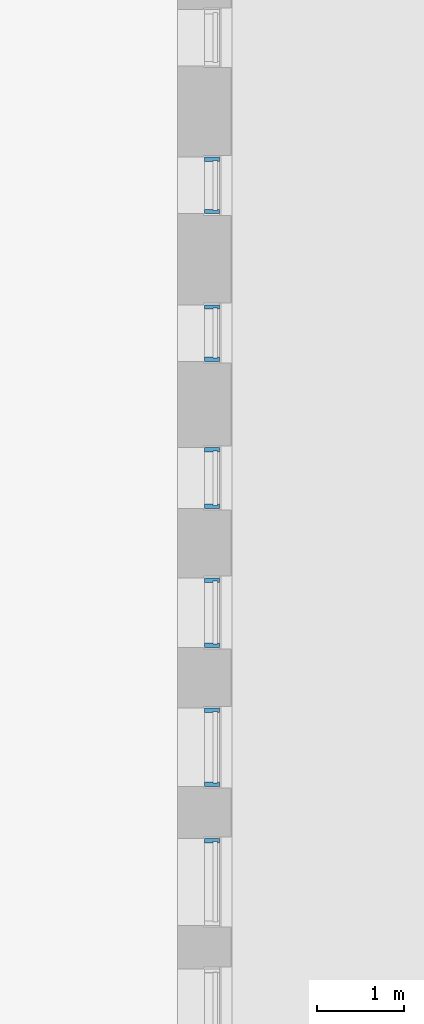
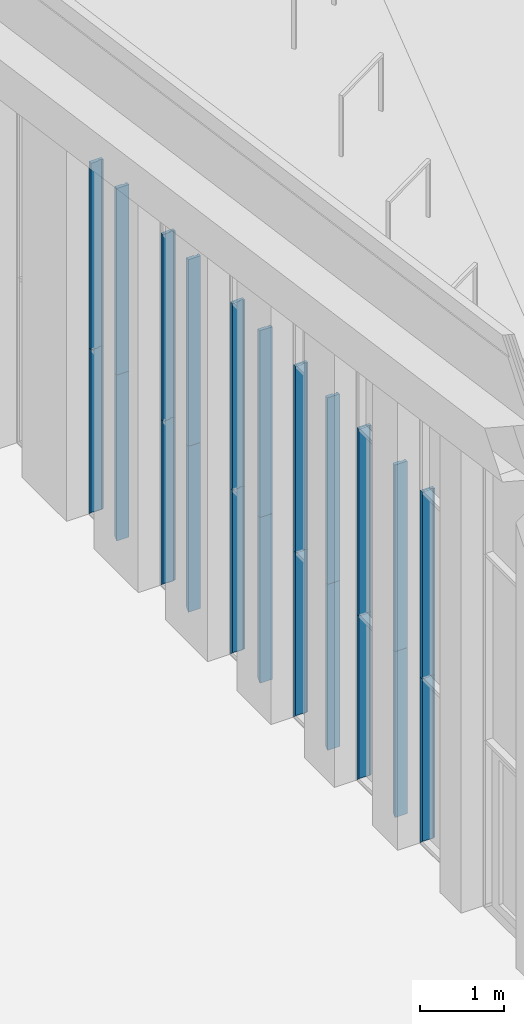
# One storey, part 17 of 246: 22 members, 6 elements without a shape of their own.
"""IFC2X3 building model written with IfcOpenShell, lengths in millimetres."""

from ifc_helpers import new_model, entity, si_unit, converted_unit, derived_unit, money_unit, direction, frame, origin_with_axes, place, context, subcontext, project, spatial, faceted_brep, source, transform, mapped, material, type_object, element, aggregate, save


model = new_model("IFC2X3")

# Units and contexts
model_context = context("Model", 3, precision=0.01, world=origin_with_axes(), true_north=direction((0.0, 1.0)))
body_context = subcontext(model_context, "Body", "Model", "MODEL_VIEW")
ifc_project = project(units=[si_unit("LENGTHUNIT", "METRE", prefix="MILLI"), si_unit("AREAUNIT", "SQUARE_METRE"), si_unit("VOLUMEUNIT", "CUBIC_METRE"), converted_unit("PLANEANGLEUNIT", "DEGREE", entity("IfcPlaneAngleMeasure", 0.0174532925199), si_unit("PLANEANGLEUNIT", "RADIAN"), dimensions=[0, 0, 0, 0, 0, 0, 0]), si_unit("SOLIDANGLEUNIT", "STERADIAN"), money_unit("EUR"), converted_unit("TIMEUNIT", "Year", entity("IfcTimeMeasure", 31556926.0), si_unit("TIMEUNIT", "SECOND"), dimensions=[0, 0, 1, 0, 0, 0, 0]), si_unit("MASSUNIT", "GRAM", prefix="KILO"), si_unit("THERMODYNAMICTEMPERATUREUNIT", "DEGREE_CELSIUS"), si_unit("LUMINOUSINTENSITYUNIT", "LUMEN"), si_unit("ENERGYUNIT", "JOULE", prefix="MEGA"), derived_unit("THERMALCONDUCTANCEUNIT", [(si_unit("POWERUNIT", "WATT"), 1), (si_unit("LENGTHUNIT", "METRE"), -1), (si_unit("THERMODYNAMICTEMPERATUREUNIT", "KELVIN"), -1)]), derived_unit("SPECIFICHEATCAPACITYUNIT", [(si_unit("ENERGYUNIT", "JOULE"), 1), (si_unit("MASSUNIT", "GRAM", prefix="KILO"), -1), (si_unit("THERMODYNAMICTEMPERATUREUNIT", "KELVIN"), -1)]), derived_unit("MASSDENSITYUNIT", [(si_unit("MASSUNIT", "GRAM", prefix="KILO"), 1), (si_unit("VOLUMEUNIT", "CUBIC_METRE"), -1)])], contexts=[model_context])

# Site, building, storey
site_placement = place(None, origin_with_axes())
site = spatial("IfcSite", under=ifc_project, at=site_placement, Name="L.Koidula tn 11b", CompositionType="ELEMENT")
building_placement = place(site_placement, origin_with_axes())
building = spatial("IfcBuilding", under=site, at=building_placement, Name="Rakvere Riigigümnaasium", CompositionType="ELEMENT")
storey_placement = place(building_placement, origin_with_axes())
storey = spatial("IfcBuildingStorey", under=building, at=storey_placement, Name="1.korrus 0,00", CompositionType="ELEMENT", Elevation=0.0)

# Curtain wall, members
curtain_wall_type = type_object("IfcCurtainWallType", Name="Curtain Wall Type", PredefinedType="NOTDEFINED")
curtain_wall_1_placement = place(storey_placement, frame((47433.9999935, 52250.4459079, -7.88318499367e-05), z_axis=(0.0, 0.0, 1.0), x_axis=(1.0, 0.0, 0.0)))
curtain_wall_1 = element("IfcCurtainWall", 1, at=curtain_wall_1_placement, inside=storey, type_object=curtain_wall_type, Name="KLF-07-05")
ifc_material = material(Name="Alumiiniumprofiil (RAL 7021)")
member_type = type_object("IfcMemberType", Name="Boundary Frame 50 x 170", PredefinedType="MULLION")
shared_shape_1 = source(origin_with_axes(), body_context, "Body", "Brep", [
    faceted_brep([(-37.0, -26.0, 2700.00000012), (-50.0, -26.0, 2700.00000012), (-50.0, -124.0, 2700.00000012), (0.0, -124.0, 2700.00000012), (0.0, 46.0, 2700.00000012), (-50.0, 46.0, 2700.00000012), (-50.0, 26.0, 2700.00000012), (-37.0, 26.0, 2700.00000012), (-37.0, -26.0, -5.18836085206e-07), (-50.0, -26.0, -5.18836307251e-07), (-50.0, -124.0, -5.18836307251e-07), (0.0, -124.0, -5.18836307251e-07), (0.0, 46.0, -5.18836307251e-07), (-50.0, 46.0, -5.18836307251e-07), (-50.0, 26.0, -5.18836307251e-07), (-37.0, 26.0, -5.18836085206e-07)], [[[0, 1, 2, 3, 4, 5, 6, 7]], [[0, 8, 9, 1]], [[9, 10, 2, 1]], [[10, 11, 3, 2]], [[11, 12, 4, 3]], [[12, 13, 5, 4]], [[6, 5, 13, 14]], [[14, 15, 7, 6]], [[7, 15, 8, 0]], [[8, 15, 14, 13, 12, 11, 10, 9]]]),
])
member_1_placement = place(curtain_wall_1_placement, frame((0.0, -449.999957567, 2400.00007883), z_axis=(0.0, 4.95403290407e-09, 1.0), x_axis=(0.0, 1.0, -4.95403290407e-09)))
member_1 = element("IfcMember", 2, at=member_1_placement, type_object=member_type, material=ifc_material, Name="KLF-07-75-Profiilid", ObjectType="MULLION", context=body_context, shape_type="MappedRepresentation", body=[
    mapped(shared_shape_1, transform((0.0, 0.0, 0.0), x_axis=(-1.0, 0.0, -4.95403290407e-09), y_axis=(0.0, -1.0, 0.0), z_axis=(-4.95403290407e-09, 0.0, 1.0))),
])
member_2_placement = place(curtain_wall_1_placement, frame((0.0, 449.999903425, 5100.00007883), z_axis=(0.0, 3.51510728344e-08, -1.0), x_axis=(0.0, -1.0, -3.51510728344e-08)))
member_2 = element("IfcMember", 3, at=member_2_placement, type_object=member_type, material=ifc_material, Name="KLF-07-79-Profiilid", ObjectType="MULLION", context=body_context, shape_type="MappedRepresentation", body=[
    mapped(shared_shape_1, transform((0.0, 0.0, 0.0), x_axis=(-1.0, 0.0, 3.51510727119e-08), y_axis=(0.0, -1.0, 0.0), z_axis=(3.51510727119e-08, 0.0, 1.0))),
])

curtain_wall_2_placement = place(storey_placement, frame((47433.9999935, 53800.4459212, -2.62174737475e-05), z_axis=(0.0, 0.0, 1.0), x_axis=(1.0, 0.0, 0.0)))
curtain_wall_2 = element("IfcCurtainWall", 4, at=curtain_wall_2_placement, inside=storey, type_object=curtain_wall_type, Name="KLF-07-06")
member_3_placement = place(curtain_wall_2_placement, frame((0.0, -399.999986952, 2400.00002622), z_axis=(0.0, 3.28485959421e-08, 1.0), x_axis=(0.0, 1.0, -3.28485959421e-08)))
member_3 = element("IfcMember", 5, at=member_3_placement, type_object=member_type, material=ifc_material, Name="KLF-07-76-Profiilid", ObjectType="MULLION", context=body_context, shape_type="MappedRepresentation", body=[
    mapped(shared_shape_1, transform((0.0, 0.0, 0.0), x_axis=(-1.0, 0.0, -3.28485959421e-08), y_axis=(0.0, -1.0, 0.0), z_axis=(-3.28485959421e-08, 0.0, 1.0))),
])
member_4_placement = place(curtain_wall_2_placement, frame((0.0, 399.99989685, 5100.00002622), z_axis=(0.0, 3.38938674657e-08, -1.0), x_axis=(0.0, -1.0, -3.38938674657e-08)))
member_4 = element("IfcMember", 6, at=member_4_placement, type_object=member_type, material=ifc_material, Name="KLF-07-80-Profiilid", ObjectType="MULLION", context=body_context, shape_type="MappedRepresentation", body=[
    mapped(shared_shape_1, transform((0.0, 0.0, 0.0), x_axis=(-1.0, 0.0, 3.38938673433e-08), y_axis=(0.0, -1.0, 0.0), z_axis=(3.38938673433e-08, 0.0, 1.0))),
])

curtain_wall_3_placement = place(storey_placement, frame((47433.9999935, 55350.4459233, 0.0), z_axis=(0.0, 0.0, 1.0), x_axis=(1.0, 0.0, 0.0)))
curtain_wall_3 = element("IfcCurtainWall", 7, at=curtain_wall_3_placement, inside=storey, type_object=curtain_wall_type, Name="KLF-07-07")
member_5_placement = place(curtain_wall_3_placement, frame((0.0, -350.000107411, 2400.0), z_axis=(0.0, 5.23833052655e-08, 1.0), x_axis=(0.0, 1.0, -5.23833052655e-08)))
member_5 = element("IfcMember", 8, at=member_5_placement, type_object=member_type, material=ifc_material, Name="KLF-07-76-Profiilid", ObjectType="MULLION", context=body_context, shape_type="MappedRepresentation", body=[
    mapped(shared_shape_1, transform((0.0, 0.0, 0.0), x_axis=(-1.0, 0.0, -5.23833052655e-08), y_axis=(0.0, -1.0, 0.0), z_axis=(-5.23833052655e-08, 0.0, 1.0))),
])
member_6_placement = place(curtain_wall_3_placement, frame((0.0, 350.000036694, 5100.0), z_axis=(0.0, 0.0, -1.0), x_axis=(0.0, -1.0, 0.0)))
member_6 = element("IfcMember", 9, at=member_6_placement, type_object=member_type, material=ifc_material, Name="KLF-07-80-Profiilid", ObjectType="MULLION", context=body_context, shape_type="MappedRepresentation", body=[
    mapped(shared_shape_1, transform((0.0, 0.0, 0.0), x_axis=(-1.0, 0.0, 0.0), y_axis=(0.0, -1.0, 0.0), z_axis=(0.0, 0.0, 1.0))),
])

curtain_wall_4_placement = place(storey_placement, frame((47433.9999935, 57020.45466, -7.96066081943e-05), z_axis=(0.0, 0.0, 1.0), x_axis=(1.0, 0.0, 0.0)))
curtain_wall_4 = element("IfcCurtainWall", 10, at=curtain_wall_4_placement, inside=storey, type_object=curtain_wall_type, Name="KLF-07-08")
member_7_placement = place(curtain_wall_4_placement, frame((0.0, -325.000155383, 2400.00007961), z_axis=(0.0, 6.11000198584e-08, 1.0), x_axis=(0.0, 1.0, -6.11000198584e-08)))
member_7 = element("IfcMember", 11, at=member_7_placement, type_object=member_type, material=ifc_material, Name="KLF-07-78-Profiilid", ObjectType="MULLION", context=body_context, shape_type="MappedRepresentation", body=[
    mapped(shared_shape_1, transform((0.0, 0.0, 0.0), x_axis=(-1.0, 0.0, -6.11000198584e-08), y_axis=(0.0, -1.0, 0.0), z_axis=(-6.11000198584e-08, 0.0, 1.0))),
])
member_8_placement = place(curtain_wall_4_placement, frame((0.0, 324.999985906, 5100.00007961), z_axis=(0.0, 0.0, -1.0), x_axis=(0.0, -1.0, 0.0)))
member_8 = element("IfcMember", 12, at=member_8_placement, type_object=member_type, material=ifc_material, Name="KLF-07-82-Profiilid", ObjectType="MULLION", context=body_context, shape_type="MappedRepresentation", body=[
    mapped(shared_shape_1, transform((0.0, 0.0, 0.0), x_axis=(-1.0, 0.0, 0.0), y_axis=(0.0, -1.0, 0.0), z_axis=(0.0, 0.0, 1.0))),
])

curtain_wall_5_placement = place(storey_placement, frame((47433.9999935, 58720.4546292, -7.96830551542e-05), z_axis=(0.0, 0.0, 1.0), x_axis=(1.0, 0.0, 0.0)))
curtain_wall_5 = element("IfcCurtainWall", 13, at=curtain_wall_5_placement, inside=storey, type_object=curtain_wall_type, Name="KLF-07-09")
member_9_placement = place(curtain_wall_5_placement, frame((0.0, -325.00012991, 2400.00007968), z_axis=(0.0, 6.48742333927e-08, 1.0), x_axis=(0.0, 1.0, -6.48742333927e-08)))
member_9 = element("IfcMember", 14, at=member_9_placement, type_object=member_type, material=ifc_material, Name="KLF-07-79_Profiilid", ObjectType="MULLION", context=body_context, shape_type="MappedRepresentation", body=[
    mapped(shared_shape_1, transform((0.0, 0.0, 0.0), x_axis=(-1.0, 0.0, -6.48742333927e-08), y_axis=(0.0, -1.0, 0.0), z_axis=(-6.48742333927e-08, 0.0, 1.0))),
])
member_10_placement = place(curtain_wall_5_placement, frame((0.0, 325.00004233, 5100.00007968), z_axis=(0.0, 0.0, -1.0), x_axis=(0.0, -1.0, 0.0)))
member_10 = element("IfcMember", 15, at=member_10_placement, type_object=member_type, material=ifc_material, Name="KLF-07-83_Profiilid", ObjectType="MULLION", context=body_context, shape_type="MappedRepresentation", body=[
    mapped(shared_shape_1, transform((0.0, 0.0, 0.0), x_axis=(-1.0, 0.0, 0.0), y_axis=(0.0, -1.0, 0.0), z_axis=(0.0, 0.0, 1.0))),
])

# Member
shared_shape_2 = source(origin_with_axes(), body_context, "Body", "Brep", [
    faceted_brep([(-37.0, -26.0, 2400.00000019), (-50.0, -26.0, 2400.00000019), (-50.0, -124.0, 2400.00000019), (0.0, -124.0, 2400.00000019), (0.0, 46.0, 2400.00000019), (-50.0, 46.0, 2400.00000019), (-50.0, 26.0, 2400.00000019), (-37.0, 26.0, 2400.00000019), (-37.0, -26.0, 37.0), (-50.0, -26.0, 50.0), (-50.0, -124.0, 50.0), (0.0, -124.0, 0.0), (0.0, 46.0, 0.0), (-50.0, 46.0, 50.0), (-50.0, 26.0, 50.0), (-37.0, 26.0, 37.0)], [[[0, 1, 2, 3, 4, 5, 6, 7]], [[0, 8, 9, 1]], [[9, 10, 2, 1]], [[2, 10, 11, 3]], [[3, 11, 12, 4]], [[4, 12, 13, 5]], [[6, 5, 13, 14]], [[14, 15, 7, 6]], [[7, 15, 8, 0]], [[8, 15, 14, 13, 12, 11, 10, 9]]]),
])
member_11_placement = place(curtain_wall_1_placement, frame((0.0, -449.999957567, 0.0), z_axis=(0.0, 0.0, 1.0), x_axis=(0.0, 1.0, 0.0)))
member_11 = element("IfcMember", 16, at=member_11_placement, type_object=member_type, material=ifc_material, Name="KLF-07-74-Profiilid", ObjectType="MULLION", context=body_context, shape_type="MappedRepresentation", body=[
    mapped(shared_shape_2, transform((0.0, 0.0, 0.0), x_axis=(-1.0, 0.0, 0.0), y_axis=(0.0, -1.0, 0.0), z_axis=(0.0, 0.0, 1.0))),
])

member_12_placement = place(curtain_wall_2_placement, frame((0.0, -399.999986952, 0.0), z_axis=(0.0, 0.0, 1.0), x_axis=(0.0, 1.0, 0.0)))
member_12 = element("IfcMember", 17, at=member_12_placement, type_object=member_type, material=ifc_material, Name="KLF-07-75-Profiilid", ObjectType="MULLION", context=body_context, shape_type="MappedRepresentation", body=[
    mapped(shared_shape_2, transform((0.0, 0.0, 0.0), x_axis=(-1.0, 0.0, 0.0), y_axis=(0.0, -1.0, 0.0), z_axis=(0.0, 0.0, 1.0))),
])

member_13_placement = place(curtain_wall_3_placement, frame((0.0, -350.000195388, 0.0), z_axis=(0.0, 3.66567813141e-08, 1.0), x_axis=(0.0, 1.0, -3.66567813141e-08)))
member_13 = element("IfcMember", 18, at=member_13_placement, type_object=member_type, material=ifc_material, Name="KLF-07-75-Profiilid", ObjectType="MULLION", context=body_context, shape_type="MappedRepresentation", body=[
    mapped(shared_shape_2, transform((0.0, 0.0, 0.0), x_axis=(-1.0, 0.0, -3.66567813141e-08), y_axis=(0.0, -1.0, 0.0), z_axis=(-3.66567813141e-08, 0.0, 1.0))),
])

member_14_placement = place(curtain_wall_4_placement, frame((0.0, -325.000324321, 0.0), z_axis=(0.0, 7.03908937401e-08, 1.0), x_axis=(0.0, 1.0, -7.03908937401e-08)))
member_14 = element("IfcMember", 19, at=member_14_placement, type_object=member_type, material=ifc_material, Name="KLF-07-77-Profiilid", ObjectType="MULLION", context=body_context, shape_type="MappedRepresentation", body=[
    mapped(shared_shape_2, transform((0.0, 0.0, 0.0), x_axis=(-1.0, 0.0, -7.03908937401e-08), y_axis=(0.0, -1.0, 0.0), z_axis=(-7.03908937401e-08, 0.0, 1.0))),
])

member_15_placement = place(curtain_wall_5_placement, frame((0.0, -325.000210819, 0.0), z_axis=(0.0, 3.37120394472e-08, 1.0), x_axis=(0.0, 1.0, -3.37120394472e-08)))
member_15 = element("IfcMember", 20, at=member_15_placement, type_object=member_type, material=ifc_material, Name="KLF-07-78_Profiilid", ObjectType="MULLION", context=body_context, shape_type="MappedRepresentation", body=[
    mapped(shared_shape_2, transform((0.0, 0.0, 0.0), x_axis=(-1.0, 0.0, -3.37120394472e-08), y_axis=(0.0, -1.0, 0.0), z_axis=(-3.37120394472e-08, 0.0, 1.0))),
])

shared_shape_3 = source(origin_with_axes(), body_context, "Body", "Brep", [
    faceted_brep([(-37.0, -26.0, 2362.99999837), (-50.0, -26.0, 2349.99999779), (-50.0, -124.0, 2349.99999779), (0.0, -124.0, 2400.0), (0.0, 46.0, 2400.0), (-50.0, 46.0, 2349.99999779), (-50.0, 26.0, 2349.99999779), (-37.0, 26.0, 2362.99999837), (-37.0, -26.0, -1.22574839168e-07), (-50.0, -26.0, -1.22575061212e-07), (-50.0, -124.0, -1.22575061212e-07), (0.0, -124.0, -1.22575061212e-07), (0.0, 46.0, -1.22575061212e-07), (-50.0, 46.0, -1.22575061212e-07), (-50.0, 26.0, -1.22575061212e-07), (-37.0, 26.0, -1.22574839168e-07)], [[[0, 1, 2, 3, 4, 5, 6, 7]], [[0, 8, 9, 1]], [[9, 10, 2, 1]], [[10, 11, 3, 2]], [[11, 12, 4, 3]], [[12, 13, 5, 4]], [[6, 5, 13, 14]], [[14, 15, 7, 6]], [[7, 15, 8, 0]], [[8, 15, 14, 13, 12, 11, 10, 9]]]),
])
member_16_placement = place(curtain_wall_1_placement, frame((0.0, 449.999998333, 2400.00007883), z_axis=(0.0, 3.95449556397e-08, -1.0), x_axis=(0.0, -1.0, -3.95449556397e-08)))
member_16 = element("IfcMember", 21, at=member_16_placement, type_object=member_type, material=ifc_material, Name="KLF-07-72-Profiilid", ObjectType="MULLION", context=body_context, shape_type="MappedRepresentation", body=[
    mapped(shared_shape_3, transform((0.0, 0.0, 0.0), x_axis=(-1.0, 0.0, 3.95449555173e-08), y_axis=(0.0, -1.0, 0.0), z_axis=(3.95449555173e-08, 0.0, 1.0))),
])

aggregate(curtain_wall_1, [member_1, member_11, member_2, member_16])

member_17_placement = place(curtain_wall_2_placement, frame((0.0, 399.999988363, 2400.00002622), z_axis=(0.0, 3.81306004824e-08, -1.0), x_axis=(0.0, -1.0, -3.81306004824e-08)))
member_17 = element("IfcMember", 22, at=member_17_placement, type_object=member_type, material=ifc_material, Name="KLF-07-73-Profiilid", ObjectType="MULLION", context=body_context, shape_type="MappedRepresentation", body=[
    mapped(shared_shape_3, transform((0.0, 0.0, 0.0), x_axis=(-1.0, 0.0, 3.813060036e-08), y_axis=(0.0, -1.0, 0.0), z_axis=(3.813060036e-08, 0.0, 1.0))),
])

aggregate(curtain_wall_2, [member_3, member_12, member_4, member_17])

member_18_placement = place(curtain_wall_3_placement, frame((0.0, 350.000036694, 2400.0), z_axis=(0.0, 0.0, -1.0), x_axis=(0.0, -1.0, 0.0)))
member_18 = element("IfcMember", 23, at=member_18_placement, type_object=member_type, material=ifc_material, Name="KLF-07-73-Profiilid", ObjectType="MULLION", context=body_context, shape_type="MappedRepresentation", body=[
    mapped(shared_shape_3, transform((0.0, 0.0, 0.0), x_axis=(-1.0, 0.0, 0.0), y_axis=(0.0, -1.0, 0.0), z_axis=(0.0, 0.0, 1.0))),
])

aggregate(curtain_wall_3, [member_5, member_13, member_6, member_18])

member_19_placement = place(curtain_wall_4_placement, frame((0.0, 324.999985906, 2400.00007961), z_axis=(0.0, 0.0, -1.0), x_axis=(0.0, -1.0, 0.0)))
member_19 = element("IfcMember", 24, at=member_19_placement, type_object=member_type, material=ifc_material, Name="KLF-07-75-Profiilid", ObjectType="MULLION", context=body_context, shape_type="MappedRepresentation", body=[
    mapped(shared_shape_3, transform((0.0, 0.0, 0.0), x_axis=(-1.0, 0.0, 0.0), y_axis=(0.0, -1.0, 0.0), z_axis=(0.0, 0.0, 1.0))),
])

aggregate(curtain_wall_4, [member_7, member_14, member_8, member_19])

member_20_placement = place(curtain_wall_5_placement, frame((0.0, 325.00004233, 2400.00007968), z_axis=(0.0, 0.0, -1.0), x_axis=(0.0, -1.0, 0.0)))
member_20 = element("IfcMember", 25, at=member_20_placement, type_object=member_type, material=ifc_material, Name="KLF-07-76_Profiilid", ObjectType="MULLION", context=body_context, shape_type="MappedRepresentation", body=[
    mapped(shared_shape_3, transform((0.0, 0.0, 0.0), x_axis=(-1.0, 0.0, 0.0), y_axis=(0.0, -1.0, 0.0), z_axis=(0.0, 0.0, 1.0))),
])

aggregate(curtain_wall_5, [member_9, member_15, member_10, member_20])

# Curtain wall, members
curtain_wall_6_placement = place(storey_placement, frame((47434.0004775, 50700.4459651, -5.70142248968e-05), z_axis=(0.0, 0.0, 1.0), x_axis=(1.0, 0.0, 0.0)))
curtain_wall_6 = element("IfcCurtainWall", 26, at=curtain_wall_6_placement, inside=storey, type_object=curtain_wall_type, Name="KLF-07-04")
shared_shape_4 = source(origin_with_axes(), body_context, "Body", "Brep", [
    faceted_brep([(37.0, -26.0, 2400.0), (37.0, 26.0, 2400.0), (50.0, 26.0, 2400.0), (50.0, 46.0, 2400.0), (0.0, 46.0, 2400.0), (0.0, -124.0, 2400.0), (50.0, -124.0, 2400.0), (50.0, -26.0, 2400.0), (37.0, -26.0, 37.0), (37.0, 26.0, 37.0), (50.0, 26.0, 50.0), (50.0, 46.0, 50.0), (0.0, 46.0, 0.0), (0.0, -124.0, 0.0), (50.0, -124.0, 50.0), (50.0, -26.0, 50.0)], [[[0, 1, 2, 3, 4, 5, 6, 7]], [[1, 0, 8, 9]], [[10, 2, 1, 9]], [[2, 10, 11, 3]], [[4, 3, 11, 12]], [[5, 4, 12, 13]], [[6, 5, 13, 14]], [[15, 7, 6, 14]], [[0, 7, 15, 8]], [[8, 15, 14, 13, 12, 11, 10, 9]]]),
])
member_21_placement = place(curtain_wall_6_placement, frame((0.0, 499.999990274, 0.0), z_axis=(0.0, 0.0, 1.0), x_axis=(0.0, 1.0, 0.0)))
member_21 = element("IfcMember", 27, at=member_21_placement, type_object=member_type, material=ifc_material, Name="KLF-07-93-Profiilid", ObjectType="MULLION", context=body_context, shape_type="MappedRepresentation", body=[
    mapped(shared_shape_4, transform((0.0, 0.0, 0.0), x_axis=(-1.0, 0.0, 0.0), y_axis=(0.0, -1.0, 0.0), z_axis=(0.0, 0.0, 1.0))),
])
shared_shape_5 = source(origin_with_axes(), body_context, "Body", "Brep", [
    faceted_brep([(37.0, -26.0, 2700.0), (37.0, 26.0, 2700.0), (50.0, 26.0, 2700.0), (50.0, 46.0, 2700.0), (0.0, 46.0, 2700.0), (0.0, -124.0, 2700.0), (50.0, -124.0, 2700.0), (50.0, -26.0, 2700.0), (37.0, -26.0, 0.0), (37.0, 26.0, 0.0), (50.0, 26.0, 0.0), (50.0, 46.0, 0.0), (0.0, 46.0, 0.0), (0.0, -124.0, 0.0), (50.0, -124.0, 0.0), (50.0, -26.0, 0.0)], [[[0, 1, 2, 3, 4, 5, 6, 7]], [[1, 0, 8, 9]], [[10, 2, 1, 9]], [[2, 10, 11, 3]], [[12, 4, 3, 11]], [[13, 5, 4, 12]], [[14, 6, 5, 13]], [[15, 7, 6, 14]], [[0, 7, 15, 8]], [[8, 15, 14, 13, 12, 11, 10, 9]]]),
])
member_22_placement = place(curtain_wall_6_placement, frame((0.0, 499.999990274, 2400.00005701), z_axis=(0.0, 0.0, 1.0), x_axis=(0.0, 1.0, 0.0)))
member_22 = element("IfcMember", 28, at=member_22_placement, type_object=member_type, material=ifc_material, Name="KLF-07-92-Profiilid", ObjectType="MULLION", context=body_context, shape_type="MappedRepresentation", body=[
    mapped(shared_shape_5, transform((0.0, 0.0, 0.0), x_axis=(-1.0, 0.0, 0.0), y_axis=(0.0, -1.0, 0.0), z_axis=(0.0, 0.0, 1.0))),
])
aggregate(curtain_wall_6, [member_21, member_22])

save(model, "model.ifc")
